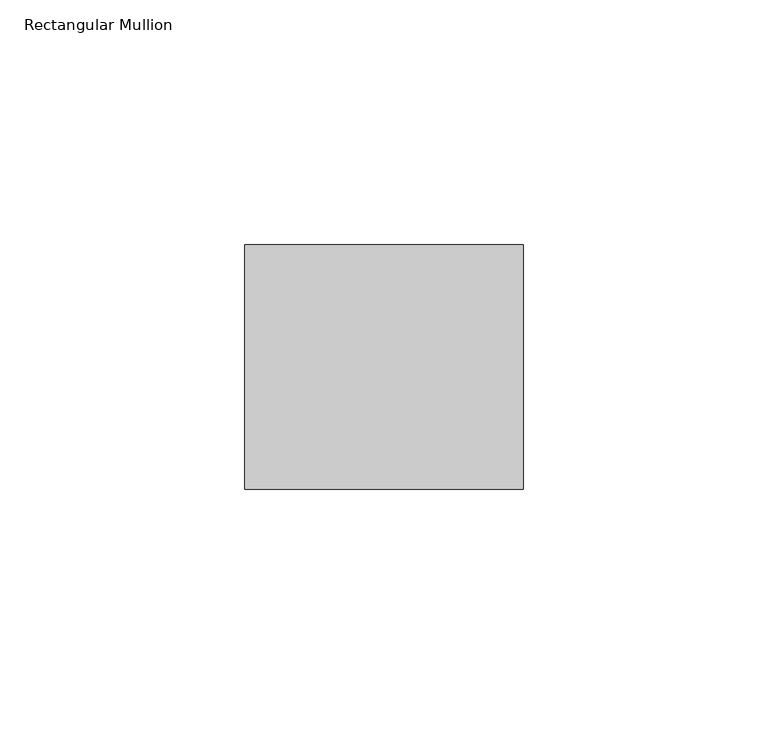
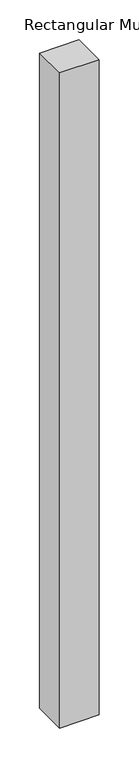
"""IFC4 building model written with IfcOpenShell, lengths in millimetres: member geometry, Rectangular Mullion : CEILING_TRACK 85-KLP00-P80-SD57XC."""

from ifc_helpers import new_model, si_unit, frame, origin, place, context, project, spatial, polyline, outline, extrude, source, transform, mapped, element, save


def rectangular_mullion_bc42f1b9(model_context):
    return source(origin(), model_context, "Body", "SweptSolid", [
        extrude(outline(polyline([(0.0, -25.0), (-57.0, -25.0), (-57.0, 25.0), (0.0, 25.0), (0.0, -25.0)])), frame((0.0, 0.0, -1000.0), z_axis=(0.0, 0.0, 1.0), x_axis=(1.0, 0.0, 0.0)), (0.0, 0.0, 1.0), 1000.0),
    ])


if __name__ == "__main__":
    model = new_model("IFC4")
    model_context = context("Model", 3, world=origin())
    ifc_project = project(units=[si_unit("LENGTHUNIT", "METRE", prefix="MILLI")], contexts=[model_context])
    site = spatial("IfcSite", under=ifc_project)
    building = spatial("IfcBuilding", under=site)
    placement = place(None, origin())
    rectangular_mullion_shape = rectangular_mullion_bc42f1b9(model_context)
    element("IfcMember", 1, ObjectType="Rectangular Mullion : CEILING_TRACK 85-KLP00-P80-SD57XC", at=placement, inside=building, context=model_context, shape_type="MappedRepresentation", body=[
        mapped(rectangular_mullion_shape, transform((0.0, 0.0, 0.0), x_axis=(1.0, 0.0, 0.0), y_axis=(0.0, 1.0, 0.0), z_axis=(0.0, 0.0, 1.0))),
    ])
    save(model, "model.ifc")
